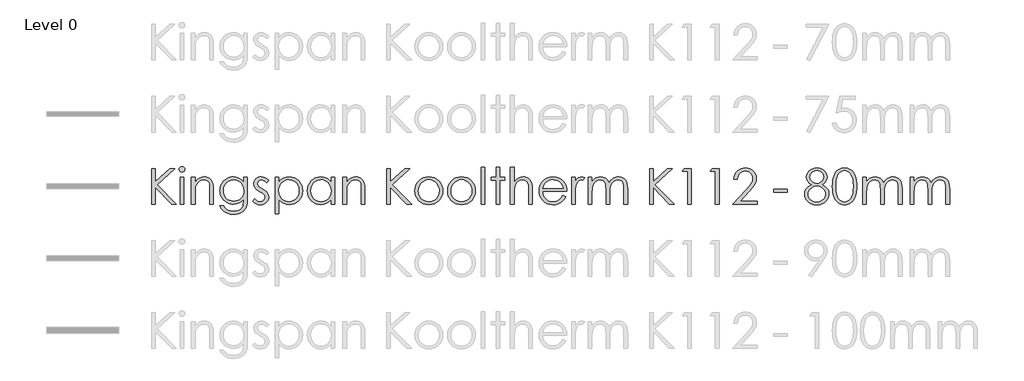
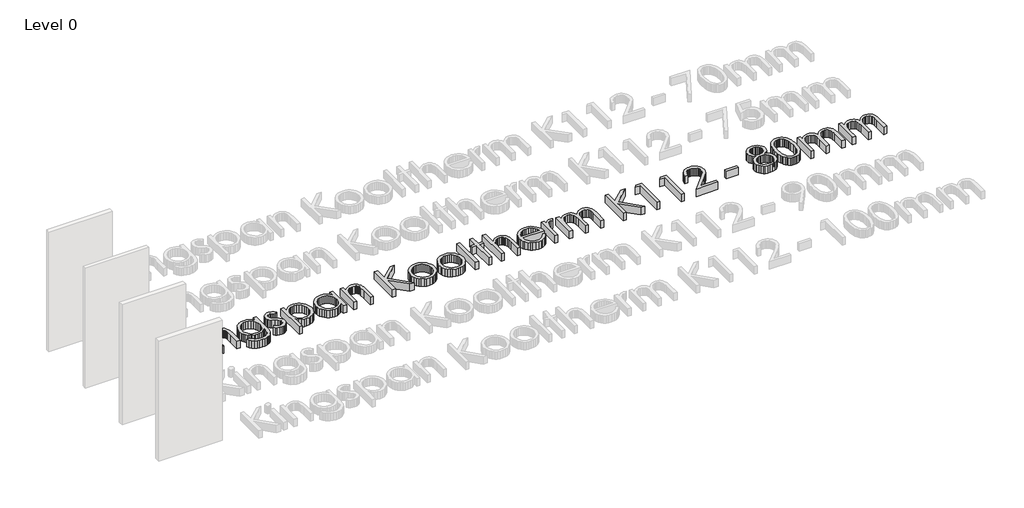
# One storey, part 8 of 14: 1 proxy.
"""IFC4 building model written with IfcOpenShell, lengths in millimetres."""

from ifc_helpers import new_model, si_unit, origin, origin_with_axes, place, context, project, spatial, polyline, outline, extrude, element, save

model = new_model("IFC4")

# Units and contexts
model_context = context("Model", 3, world=origin())
ifc_project = project(units=[si_unit("LENGTHUNIT", "METRE", prefix="MILLI")], contexts=[model_context])

# Site, building, storey
site = spatial("IfcSite", under=ifc_project)
building = spatial("IfcBuilding", under=site)
storey = spatial("IfcBuildingStorey", under=building, Name="Level 0", Elevation=0.0)

# Proxy
placement = place(None, origin())
element("IfcBuildingElementProxy", 1, Name="600mm KI_CenturyGothic", ObjectType="600mm KI_CenturyGothic", at=placement, inside=storey, context=model_context, shape_type="SweptSolid", body=[
    extrude(outline(polyline([(-3852.2663848, -1299.1034017), (-3792.944575, -1299.1034017), (-3792.944575, -1518.316027), (-3555.1938841, -1299.1034017), (-3471.6181051, -1299.1034017), (-3760.9664119, -1566.0515459), (-3441.9572002, -1892.3214999), (-3520.8984627, -1892.3214999), (-3792.944575, -1614.0960325), (-3792.944575, -1892.3214999), (-3852.2663848, -1892.3214999), (-3852.2663848, -1299.1034017)])), origin_with_axes(), (0.0, 0.0, 1.0), 150.0),
    extrude(outline(polyline([(-3348.1854852, -1269.4424967), (-3329.145347, -1272.7252792), (-3313.1176445, -1282.5736265), (-3302.226531, -1297.0178693), (-3298.5961598, -1314.088338), (-3302.226531, -1330.9270809), (-3313.1176445, -1345.2940817), (-3329.145347, -1355.142429), (-3348.1854852, -1358.4252115), (-3366.9938975, -1355.142429), (-3382.9443581, -1345.2940817), (-3393.8354717, -1330.9270809), (-3397.4658428, -1314.088338), (-3393.8354717, -1297.0178693), (-3382.9443581, -1282.5736265), (-3366.9938975, -1272.7252792), (-3348.1854852, -1269.4424967)])), origin_with_axes(), (0.0, 0.0, 1.0), 150.0),
    extrude(outline(polyline([(-3377.6919062, -1447.4079262), (-3318.3700964, -1447.4079262), (-3318.3700964, -1892.3214999), (-3377.6919062, -1892.3214999), (-3377.6919062, -1447.4079262)])), origin_with_axes(), (0.0, 0.0, 1.0), 150.0),
    extrude(outline(polyline([(-3189.8395084, -1447.4079262), (-3130.5176986, -1447.4079262), (-3130.5176986, -1526.5036726), (-3096.9946967, -1486.9944204), (-3060.0730495, -1459.303185), (-3019.7141359, -1442.9665147), (-2975.879335, -1437.5209579), (-2953.4357238, -1439.0995901), (-2932.2955704, -1443.8354865), (-2912.4588747, -1451.7286472), (-2893.9256368, -1462.7790723), (-2877.212412, -1476.5039994), (-2862.835756, -1492.4206667), (-2841.0921499, -1530.8292213), (-2833.6238199, -1555.2087086), (-2828.2892984, -1585.5551357), (-2824.0216812, -1664.1488095), (-2824.0216812, -1892.3214999), (-2883.343491, -1892.3214999), (-2883.343491, -1679.1337458), (-2883.343491, -1576.092998), (-2884.7290183, -1555.2956057), (-2889.8125035, -1537.2403023), (-2898.2849788, -1521.9270877), (-2910.1464442, -1509.355962), (-2924.7403432, -1499.5558909), (-2941.4101193, -1492.5558401), (-2980.977303, -1486.9557994), (-3005.3471351, -1489.1137461), (-3028.4038541, -1495.5875862), (-3050.1474602, -1506.3773197), (-3070.5779533, -1521.4829466), (-3088.6622225, -1539.7651482), (-3103.3671568, -1560.084606), (-3114.6927562, -1582.44132), (-3122.6390208, -1606.8352901), (-3128.5480292, -1653.9142525), (-3130.5176986, -1728.4141035), (-3130.5176986, -1892.3214999), (-3189.8395084, -1892.3214999), (-3189.8395084, -1447.4079262)])), origin_with_axes(), (0.0, 0.0, 1.0), 150.0),
    extrude(outline(polyline([(-2319.7862977, -1447.4079262), (-2260.4644879, -1447.4079262), (-2260.4644879, -1798.395301), (-2264.5196897, -1878.6496765), (-2269.588692, -1909.4499001), (-2276.6852953, -1934.0321474), (-2289.9371156, -1962.6454585), (-2307.2924139, -1987.7732271), (-2328.7511904, -2009.4154531), (-2354.3134448, -2027.5721366), (-2383.3226209, -2041.9343098), (-2415.122162, -2052.1930049), (-2449.7120682, -2058.348222), (-2487.0923395, -2060.3999611), (-2541.0458345, -2056.3833802), (-2589.206184, -2044.3336376), (-2630.260275, -2025.5059147), (-2662.8949946, -2001.1553932), (-2690.2000204, -1967.8061856), (-2715.2650299, -1921.9824048), (-2655.94322, -1921.9824048), (-2642.4355358, -1943.151524), (-2627.0933555, -1961.3951046), (-2609.9166791, -1976.7131468), (-2590.9055067, -1989.1056506), (-2569.7894914, -1998.6691682), (-2546.2982864, -2005.5002523), (-2492.1903075, -2010.9651195), (-2438.5071593, -2005.6354257), (-2415.083541, -1998.9733084), (-2393.93856, -1989.6463441), (-2359.6624492, -1965.6047903), (-2336.8567664, -1936.1176798), (-2329.3884364, -1917.4782342), (-2324.0539149, -1893.7697863), (-2319.7862977, -1831.1458835), (-2319.7862977, -1808.4367532), (-2354.757586, -1844.2190818), (-2396.6420279, -1870.6165148), (-2443.392712, -1886.8952536), (-2492.9627269, -1892.3214999), (-2522.4063889, -1890.4242447), (-2550.9521133, -1884.7324793), (-2578.5999001, -1875.2462036), (-2605.3497494, -1861.9654175), (-2630.1540674, -1845.4742634), (-2651.9652601, -1826.3568832), (-2670.7833277, -1804.6132772), (-2686.6082702, -1780.2434451), (-2699.1456025, -1753.9280817), (-2708.1008399, -1726.3478816), (-2713.4739824, -1697.5028447), (-2715.2650299, -1667.392971), (-2713.3967404, -1637.1044753), (-2707.7918722, -1607.8780563), (-2698.4504251, -1579.713714), (-2685.3723991, -1552.6114483), (-2668.9971079, -1527.4257483), (-2649.7638648, -1505.0111029), (-2627.67267, -1485.367512), (-2602.7235235, -1468.4949758), (-2575.9833294, -1454.943843), (-2548.5189922, -1445.2644624), (-2520.3305117, -1439.456834), (-2491.4178881, -1437.5209579), (-2444.5320306, -1442.4644421), (-2400.8903346, -1457.2948945), (-2359.6045177, -1483.8661218), (-2319.7862977, -1524.0319306), (-2319.7862977, -1447.4079262)]), holes=[polyline([(-2484.1571458, -1486.9557994), (-2529.0154023, -1492.9806707), (-2570.5908765, -1511.0552847), (-2606.2187212, -1539.7699758), (-2633.2340897, -1577.7150788), (-2650.2659375, -1621.9940208), (-2655.94322, -1669.7102292), (-2653.0080263, -1705.6229036), (-2644.2024452, -1738.2817613), (-2629.5264766, -1767.6868023), (-2608.9801206, -1793.8380266), (-2583.7606272, -1815.296803), (-2555.0652466, -1830.6245004), (-2522.8939786, -1839.8211189), (-2487.2468234, -1842.8866584), (-2451.3244937, -1839.845257), (-2419.1001219, -1830.7210528), (-2390.573708, -1815.5140459), (-2365.7452519, -1794.2242363), (-2345.6382095, -1767.9812872), (-2331.2760363, -1737.9148621), (-2322.6587323, -1704.024961), (-2319.7862977, -1666.3115838), (-2325.0773706, -1617.6105407), (-2340.9505892, -1574.3936754), (-2366.4983608, -1538.1672056), (-2400.8130926, -1510.4373492), (-2440.9982119, -1492.8261869), (-2484.1571458, -1486.9557994)])]), origin_with_axes(), (0.0, 0.0, 1.0), 150.0),
    extrude(outline(polyline([(-1904.5336289, -1498.6965743), (-1940.9918246, -1536.390641), (-1962.9575012, -1514.7628978), (-1984.6721416, -1499.3145098), (-2006.1357456, -1490.045477), (-2027.3483133, -1486.9557994), (-2052.181597, -1491.6289368), (-2073.2300256, -1505.6483489), (-2087.5970264, -1525.8857371), (-2092.3860267, -1549.212803), (-2088.4466878, -1570.7633042), (-2076.628671, -1591.2324183), (-2052.0657341, -1613.400855), (-2010.2006027, -1639.122421), (-1958.3326401, -1671.9888664), (-1939.8428507, -1687.8138088), (-1926.315856, -1703.2332311), (-1909.9791857, -1735.9065716), (-1904.5336289, -1772.4420092), (-1906.9474396, -1798.5884059), (-1914.1888714, -1822.6492701), (-1926.2579245, -1844.624602), (-1943.1545989, -1864.5144015), (-1963.6719892, -1881.0055557), (-1986.6031901, -1892.7849515), (-2011.9482016, -1899.852589), (-2039.7070237, -1902.2084682), (-2077.4397114, -1898.3270607), (-2113.3958344, -1886.6828383), (-2145.4512394, -1868.2027042), (-2171.4817731, -1843.8135617), (-2135.7959969, -1803.3387852), (-2114.0041146, -1824.9665283), (-2091.5749863, -1840.4149163), (-2068.5086121, -1849.6839491), (-2044.8049918, -1852.7736267), (-2013.637869, -1847.1349651), (-1987.4914724, -1830.2189802), (-1969.7644472, -1805.6560434), (-1963.8554388, -1777.0765256), (-1967.7561567, -1753.2860081), (-1979.4583106, -1732.2762005), (-2005.0253927, -1710.5712154), (-2050.2119275, -1683.7682622), (-2099.762632, -1653.1032121), (-2117.441381, -1637.9444814), (-2130.3890611, -1622.9016136), (-2146.3781427, -1590.7689666), (-2151.7078365, -1554.310771), (-2149.5305794, -1530.2643896), (-2142.9988078, -1508.3325063), (-2132.1125219, -1488.5151211), (-2116.8717217, -1470.812234), (-2098.309518, -1456.2473007), (-2077.4590218, -1445.8437769), (-2054.3202332, -1439.6016627), (-2028.8931521, -1437.5209579), (-1997.9481, -1441.3444339), (-1966.9064954, -1452.814862), (-1935.7683384, -1471.9322421), (-1904.5336289, -1498.6965743)])), origin_with_axes(), (0.0, 0.0, 1.0), 150.0),
    extrude(outline(polyline([(-1795.7769776, -1447.4079262), (-1736.4551678, -1447.4079262), (-1736.4551678, -1528.5119631), (-1700.9238754, -1488.2689124), (-1660.4490989, -1459.9211205), (-1614.9922173, -1443.1209986), (-1564.5146096, -1437.5209579), (-1520.0618732, -1441.7596094), (-1478.9305402, -1454.4755637), (-1441.1206107, -1475.668821), (-1406.6320845, -1505.3393811), (-1377.9077381, -1540.9768811), (-1357.3903478, -1580.070958), (-1345.0799137, -1622.6216116), (-1340.9764356, -1668.628842), (-1345.0412927, -1715.5291824), (-1357.235864, -1758.7508754), (-1377.5601494, -1798.293921), (-1406.014149, -1834.1583192), (-1440.2130179, -1863.9302594), (-1477.7719111, -1885.1959309), (-1518.6908288, -1897.9553339), (-1562.9697708, -1902.2084682), (-1612.6170277, -1896.743601), (-1658.0545988, -1880.3489992), (-1699.3211052, -1853.1019049), (-1736.4551678, -1815.07956), (-1736.4551678, -2050.5129928), (-1795.7769776, -2050.5129928), (-1795.7769776, -1447.4079262)]), holes=[polyline([(-1568.5311905, -1486.9557994), (-1602.5852307, -1490.2530647), (-1633.8392507, -1500.1448607), (-1662.2932503, -1516.6311872), (-1687.9472295, -1539.7120444), (-1709.1694525, -1567.6977647), (-1724.3281832, -1598.8986808), (-1733.4234216, -1633.3147926), (-1736.4551678, -1670.9461002), (-1731.048232, -1719.8016272), (-1714.8274246, -1763.4819442), (-1688.5265441, -1800.3263495), (-1652.8793888, -1828.6741414), (-1611.4390881, -1846.7487554), (-1567.7587711, -1852.7736267), (-1525.0632888, -1846.7101344), (-1485.0326535, -1828.5196576), (-1450.2544701, -1799.4187567), (-1423.3163435, -1760.6239924), (-1406.05277, -1715.9588407), (-1400.2982454, -1669.2467775), (-1405.9948385, -1622.3029886), (-1423.0846177, -1577.8695627), (-1449.8103289, -1539.5189395), (-1484.414718, -1510.8235589), (-1524.7157001, -1492.9227393), (-1568.5311905, -1486.9557994)])]), origin_with_axes(), (0.0, 0.0, 1.0), 150.0),
    extrude(outline(polyline([(-807.0801472, -1447.4079262), (-807.0801472, -1892.3214999), (-866.401957, -1892.3214999), (-866.401957, -1816.4699149), (-903.4780882, -1854.3184655), (-944.8797679, -1881.0441767), (-990.4525125, -1896.9173953), (-1040.0418379, -1902.2084682), (-1084.3159523, -1897.9553339), (-1125.2203871, -1885.1959309), (-1162.7551422, -1863.9302594), (-1196.9202178, -1834.1583192), (-1225.340424, -1798.293921), (-1245.6405713, -1758.7508754), (-1257.8206597, -1715.5291824), (-1261.8806892, -1668.628842), (-1257.7820388, -1622.6216116), (-1245.4860875, -1580.070958), (-1224.9928353, -1540.9768811), (-1196.3022822, -1505.3393811), (-1161.8475494, -1475.668821), (-1124.061758, -1454.4755637), (-1082.9449079, -1441.7596094), (-1038.4969991, -1437.5209579), (-987.7490446, -1443.1209986), (-942.0990581, -1459.9211205), (-921.2051134, -1472.6081091), (-901.6242816, -1488.2689124), (-866.401957, -1528.5119631), (-866.401957, -1447.4079262), (-807.0801472, -1447.4079262)]), holes=[polyline([(-1034.3259343, -1486.9557994), (-1078.1414247, -1492.9227393), (-1118.4424068, -1510.8235589), (-1153.0467959, -1539.5189395), (-1179.7725071, -1577.8695627), (-1196.8622863, -1622.3029886), (-1202.5588794, -1669.2467775), (-1196.8043548, -1715.9588407), (-1179.5407813, -1760.6239924), (-1152.6026548, -1799.4187567), (-1117.8244713, -1828.5196576), (-1077.6779731, -1846.7101344), (-1034.6349021, -1852.7736267), (-991.0125165, -1846.7487554), (-949.7460102, -1828.6741414), (-914.2726493, -1800.3263495), (-888.0297002, -1763.4819442), (-871.8088928, -1719.8016272), (-866.401957, -1670.9461002), (-869.4337032, -1633.3147926), (-878.5289416, -1598.8986808), (-893.6876723, -1567.6977647), (-914.9098953, -1539.7120444), (-940.5638746, -1516.6311872), (-969.0178742, -1500.1448607), (-1000.2718941, -1490.2530647), (-1034.3259343, -1486.9557994)])]), origin_with_axes(), (0.0, 0.0, 1.0), 150.0),
    extrude(outline(polyline([(-668.662591, -1447.4079262), (-609.3407811, -1447.4079262), (-609.3407811, -1526.5036726), (-575.8177792, -1486.9944204), (-538.896132, -1459.303185), (-498.5372184, -1442.9665147), (-454.7024175, -1437.5209579), (-432.2588064, -1439.0995901), (-411.1186529, -1443.8354865), (-391.2819572, -1451.7286472), (-372.7487193, -1462.7790723), (-356.0354946, -1476.5039994), (-341.6588385, -1492.4206667), (-319.9152324, -1530.8292213), (-312.4469024, -1555.2087086), (-307.1123809, -1585.5551357), (-302.8447637, -1664.1488095), (-302.8447637, -1892.3214999), (-362.1665735, -1892.3214999), (-362.1665735, -1679.1337458), (-362.1665735, -1576.092998), (-363.5521008, -1555.2956057), (-368.635586, -1537.2403023), (-377.1080613, -1521.9270877), (-388.9695267, -1509.355962), (-403.5634257, -1499.5558909), (-420.2332018, -1492.5558401), (-459.8003855, -1486.9557994), (-484.1702176, -1489.1137461), (-507.2269366, -1495.5875862), (-528.9705427, -1506.3773197), (-549.4010358, -1521.4829466), (-567.485305, -1539.7651482), (-582.1902393, -1560.084606), (-593.5158387, -1582.44132), (-601.4621033, -1606.8352901), (-607.3711117, -1653.9142525), (-609.3407811, -1728.4141035), (-609.3407811, -1892.3214999), (-668.662591, -1892.3214999), (-668.662591, -1447.4079262)])), origin_with_axes(), (0.0, 0.0, 1.0), 150.0),
    extrude(outline(polyline([(62.9730635, -1299.1034017), (122.2948734, -1299.1034017), (122.2948734, -1518.316027), (360.0455643, -1299.1034017), (443.6213432, -1299.1034017), (154.2730365, -1566.0515459), (473.2822481, -1892.3214999), (394.3409856, -1892.3214999), (122.2948734, -1614.0960325), (122.2948734, -1892.3214999), (62.9730635, -1892.3214999), (62.9730635, -1299.1034017)])), origin_with_axes(), (0.0, 0.0, 1.0), 150.0),
    extrude(outline(polyline([(760.1588128, -1437.5209579), (809.4681362, -1442.1458191), (854.3553585, -1456.0204025), (894.8204798, -1479.1447083), (930.8635, -1511.5187363), (957.7630055, -1546.7507161), (976.9769381, -1585.091684), (988.5052976, -1626.54164), (992.3480841, -1671.1005841), (988.283227, -1715.9153921), (976.0886558, -1757.8239721), (955.7643703, -1796.8263241), (927.3103707, -1832.9224481), (892.4742558, -1863.2350819), (853.0036246, -1884.8869632), (808.8984769, -1897.8780919), (760.1588128, -1902.2084682), (711.2839754, -1897.8780919), (667.0822753, -1884.8869632), (627.5537126, -1863.2350819), (592.6982872, -1832.9224481), (564.2442876, -1796.8263241), (543.9200022, -1757.8239721), (531.7254309, -1715.9153921), (527.6605738, -1671.1005841), (531.5033603, -1626.7347449), (543.0317198, -1585.4006518), (562.2456524, -1547.0983049), (589.145158, -1511.8277041), (625.2074886, -1479.3185026), (665.7305413, -1456.0976445), (710.7143161, -1442.1651295), (760.1588128, -1437.5209579)]), holes=[polyline([(760.004329, -1486.9557994), (725.7282181, -1490.3303067), (693.9624704, -1500.4538284), (664.7070856, -1517.3263647), (637.962064, -1540.9479154), (615.6584538, -1569.3584664), (599.7273037, -1600.5980035), (590.1686137, -1634.6665266), (586.9823836, -1671.5640357), (592.7948396, -1719.2995546), (610.2322075, -1763.6364281), (637.5758543, -1801.4270471), (673.1071466, -1829.5238028), (714.6439998, -1846.9611707), (760.004329, -1852.7736267), (805.3646581, -1846.9611707), (846.9015113, -1829.5238028), (882.4328037, -1801.4270471), (909.7764504, -1763.6364281), (927.2138183, -1719.2995546), (933.0262743, -1671.5640357), (929.8255614, -1634.6665266), (920.2234227, -1600.5980035), (904.2198583, -1569.3584664), (881.8148681, -1540.9479154), (854.9974321, -1517.3263647), (825.7565303, -1500.4538284), (794.0921625, -1490.3303067), (760.004329, -1486.9557994)])]), origin_with_axes(), (0.0, 0.0, 1.0), 150.0),
    extrude(outline(polyline([(1303.9420695, -1437.5209579), (1353.2513929, -1442.1458191), (1398.1386152, -1456.0204025), (1438.6037365, -1479.1447083), (1474.6467567, -1511.5187363), (1501.5462622, -1546.7507161), (1520.7601948, -1585.091684), (1532.2885543, -1626.54164), (1536.1313408, -1671.1005841), (1532.0664837, -1715.9153921), (1519.8719125, -1757.8239721), (1499.547627, -1796.8263241), (1471.0936274, -1832.9224481), (1436.2575126, -1863.2350819), (1396.7868813, -1884.8869632), (1352.6817336, -1897.8780919), (1303.9420695, -1902.2084682), (1255.0672321, -1897.8780919), (1210.865532, -1884.8869632), (1171.3369693, -1863.2350819), (1136.4815439, -1832.9224481), (1108.0275443, -1796.8263241), (1087.7032589, -1757.8239721), (1075.5086876, -1715.9153921), (1071.4438305, -1671.1005841), (1075.286617, -1626.7347449), (1086.8149766, -1585.4006518), (1106.0289091, -1547.0983049), (1132.9284147, -1511.8277041), (1168.9907453, -1479.3185026), (1209.5137981, -1456.0976445), (1254.4975728, -1442.1651295), (1303.9420695, -1437.5209579)]), holes=[polyline([(1303.7875857, -1486.9557994), (1269.5114748, -1490.3303067), (1237.7457271, -1500.4538284), (1208.4903423, -1517.3263647), (1181.7453207, -1540.9479154), (1159.4417105, -1569.3584664), (1143.5105604, -1600.5980035), (1133.9518704, -1634.6665266), (1130.7656404, -1671.5640357), (1136.5780963, -1719.2995546), (1154.0154643, -1763.6364281), (1181.359111, -1801.4270471), (1216.8904033, -1829.5238028), (1258.4272565, -1846.9611707), (1303.7875857, -1852.7736267), (1349.1479149, -1846.9611707), (1390.684768, -1829.5238028), (1426.2160604, -1801.4270471), (1453.5597071, -1763.6364281), (1470.997075, -1719.2995546), (1476.809531, -1671.5640357), (1473.6088181, -1634.6665266), (1464.0066795, -1600.5980035), (1448.003115, -1569.3584664), (1425.5981249, -1540.9479154), (1398.7806889, -1517.3263647), (1369.539787, -1500.4538284), (1337.8754193, -1490.3303067), (1303.7875857, -1486.9557994)])]), origin_with_axes(), (0.0, 0.0, 1.0), 150.0),
    extrude(outline(polyline([(1635.0010238, -1279.3294651), (1694.3228337, -1279.3294651), (1694.3228337, -1892.3214999), (1635.0010238, -1892.3214999), (1635.0010238, -1279.3294651)])), origin_with_axes(), (0.0, 0.0, 1.0), 150.0),
    extrude(outline(polyline([(1882.1752314, -1279.3294651), (1941.4970413, -1279.3294651), (1941.4970413, -1447.4079262), (2020.5927877, -1447.4079262), (2020.5927877, -1496.8427677), (1941.4970413, -1496.8427677), (1941.4970413, -1892.3214999), (1882.1752314, -1892.3214999), (1882.1752314, -1496.8427677), (1803.079485, -1496.8427677), (1803.079485, -1447.4079262), (1882.1752314, -1447.4079262), (1882.1752314, -1279.3294651)])), origin_with_axes(), (0.0, 0.0, 1.0), 150.0),
    extrude(outline(polyline([(2119.4624707, -1279.3294651), (2178.7842806, -1279.3294651), (2178.7842806, -1528.0485114), (2212.5583188, -1488.3461544), (2249.6151394, -1460.0756044), (2289.9161216, -1443.1596195), (2333.4226442, -1437.5209579), (2355.8662553, -1439.0995901), (2377.0064088, -1443.8354865), (2396.8431044, -1451.7286472), (2415.3763424, -1462.7790723), (2432.0895671, -1476.4895166), (2446.4662232, -1492.3627352), (2468.2098293, -1530.5974955), (2475.6781593, -1554.9045684), (2481.0126808, -1585.2654784), (2485.280298, -1664.1488095), (2485.280298, -1892.3214999), (2425.9584882, -1892.3214999), (2425.9584882, -1679.1337458), (2424.5681332, -1614.752589), (2420.3970685, -1576.092998), (2406.879729, -1537.2403023), (2397.1665551, -1521.9270877), (2385.4837117, -1509.355962), (2371.840854, -1499.5558909), (2356.2476374, -1492.5558401), (2319.2101273, -1486.9557994), (2296.3416854, -1489.1137461), (2274.6994594, -1495.5875862), (2254.2834492, -1506.3773197), (2235.0936547, -1521.4829466), (2218.1052556, -1539.7651482), (2204.2934312, -1560.084606), (2193.6581816, -1582.44132), (2186.1995068, -1606.8352901), (2180.6380871, -1653.6825267), (2178.7842806, -1728.4141035), (2178.7842806, -1892.3214999), (2119.4624707, -1892.3214999), (2119.4624707, -1279.3294651)])), origin_with_axes(), (0.0, 0.0, 1.0), 150.0),
    extrude(outline(polyline([(2991.0605203, -1744.0169753), (3038.950523, -1769.1978477), (3013.3255094, -1811.0822896), (2984.0315038, -1844.0452875), (2950.952643, -1869.1296074), (2913.9730643, -1887.3780157), (2872.4941426, -1898.5008551), (2825.9172528, -1902.2084682), (2774.4258447, -1897.7767119), (2728.8627554, -1884.481443), (2689.227985, -1862.3226615), (2655.5215335, -1831.3003674), (2628.6220279, -1794.6973431), (2609.4080954, -1755.7963712), (2597.8797358, -1714.5974515), (2594.0369493, -1671.1005841), (2597.3197318, -1630.2202874), (2607.1680791, -1591.618628), (2623.5819913, -1555.2956057), (2646.5614684, -1521.2512207), (2682.7493173, -1484.6192308), (2724.5758277, -1458.4535236), (2772.0409998, -1442.7540993), (2825.1448334, -1437.5209579), (2879.7935059, -1442.8892727), (2928.6490329, -1458.9942172), (2971.7114143, -1485.8357913), (3008.9806503, -1523.4139951), (3030.4539096, -1555.585263), (3045.9022976, -1591.541386), (3055.3258143, -1631.2823641), (3058.7244596, -1674.8081972), (2653.3587591, -1674.8081972), (2657.095338, -1712.0629503), (2666.6057518, -1745.8128504), (2681.8900007, -1776.0578975), (2702.9480845, -1802.7980916), (2728.3124066, -1824.6623882), (2756.5153699, -1840.2797429), (2787.5569744, -1849.6501557), (2821.4372203, -1852.7736267), (2854.9602222, -1849.761191), (2887.5563208, -1840.7238841), (2917.2944677, -1826.6851615), (2942.2436143, -1808.668479), (2965.725164, -1782.5027719), (2991.0605203, -1744.0169753)]), holes=[polyline([(2999.4026498, -1625.3733557), (2984.9777175, -1582.8516678), (2965.1844704, -1549.8307385), (2939.0766947, -1524.3022774), (2905.7081767, -1504.257994), (2867.7630738, -1491.2813481), (2827.9255433, -1486.9557994), (2795.503239, -1489.6689226), (2765.4368139, -1497.808292), (2737.726268, -1511.3739077), (2712.3716012, -1530.3657696), (2695.8321708, -1548.179692), (2681.4362043, -1569.9522638), (2669.1837016, -1595.683485), (2659.0746627, -1625.3733557), (2999.4026498, -1625.3733557)])]), origin_with_axes(), (0.0, 0.0, 1.0), 150.0),
    extrude(outline(polyline([(3137.820206, -1447.4079262), (3197.1420159, -1447.4079262), (3197.1420159, -1511.8277041), (3222.6897875, -1478.7874643), (3249.589293, -1455.6728138), (3277.7632906, -1442.0589219), (3307.1345382, -1437.5209579), (3330.4616041, -1441.305813), (3355.3335087, -1452.6603781), (3325.8270877, -1494.6799934), (3297.2475699, -1486.9557994), (3270.8308265, -1492.9034288), (3245.3409863, -1510.7463169), (3223.2884125, -1541.1023993), (3207.183468, -1584.5896114), (3199.6523789, -1642.7141712), (3197.1420159, -1740.1548783), (3197.1420159, -1892.3214999), (3137.820206, -1892.3214999), (3137.820206, -1447.4079262)])), origin_with_axes(), (0.0, 0.0, 1.0), 150.0),
    extrude(outline(polyline([(3414.6553185, -1447.4079262), (3473.9771284, -1447.4079262), (3473.9771284, -1523.5684789), (3503.5607913, -1487.0716623), (3533.9168737, -1461.9294109), (3577.3268439, -1443.6230712), (3622.8995884, -1437.5209579), (3653.7384329, -1440.668567), (3682.9165757, -1450.1113941), (3708.6767627, -1464.7873627), (3729.2617397, -1483.634396), (3746.0425511, -1509.0663047), (3760.3902414, -1543.4968994), (3775.16759, -1519.0981017), (3791.6925376, -1497.808292), (3809.965084, -1479.6274704), (3829.9852293, -1464.5556369), (3851.2798666, -1452.7279648), (3873.375889, -1444.2796277), (3896.2732965, -1439.2106253), (3919.9720892, -1437.5209579), (3962.3006723, -1443.3334139), (3981.4952943, -1450.5989839), (3999.3768034, -1460.7707818), (4015.4914031, -1473.53984), (4029.385297, -1488.5971907), (4050.5109676, -1525.5767694), (4057.8103309, -1548.9521114), (4063.0241619, -1577.5219739), (4067.1952266, -1650.2452603), (4067.1952266, -1892.3214999), (4007.8734168, -1892.3214999), (4007.8734168, -1646.6921311), (4005.4209852, -1585.5744462), (3998.0636904, -1547.1272706), (3984.7587663, -1522.6608861), (3964.4634466, -1503.4855746), (3938.3942919, -1491.0882432), (3907.7678627, -1486.9557994), (3888.1194443, -1488.5054659), (3869.3399976, -1493.1544651), (3834.3880198, -1511.7504621), (3805.6540182, -1540.6968791), (3785.8800816, -1577.9468046), (3779.1889985, -1602.1042213), (3774.4096535, -1633.1747916), (3770.5861775, -1716.0553931), (3770.5861775, -1892.3214999), (3711.2643677, -1892.3214999), (3711.2643677, -1661.9860352), (3708.850557, -1593.530366), (3701.6091252, -1551.2983353), (3688.3621325, -1525.0553863), (3667.9316394, -1504.5669617), (3641.6114484, -1491.35859), (3610.6953619, -1486.9557994), (3573.7544042, -1492.9999812), (3539.2465676, -1511.1325266), (3510.2808401, -1539.499629), (3489.9662099, -1576.2474819), (3477.9743988, -1628.0768236), (3473.9771284, -1701.6883923), (3473.9771284, -1892.3214999), (3414.6553185, -1892.3214999), (3414.6553185, -1447.4079262)])), origin_with_axes(), (0.0, 0.0, 1.0), 150.0),
    extrude(outline(polyline([(4433.0130538, -1299.1034017), (4492.3348637, -1299.1034017), (4492.3348637, -1518.316027), (4730.0855546, -1299.1034017), (4813.6613335, -1299.1034017), (4524.3130268, -1566.0515459), (4843.3222385, -1892.3214999), (4764.3809759, -1892.3214999), (4492.3348637, -1614.0960325), (4492.3348637, -1892.3214999), (4433.0130538, -1892.3214999), (4433.0130538, -1299.1034017)])), origin_with_axes(), (0.0, 0.0, 1.0), 150.0),
    extrude(outline(polyline([(5010.6282802, -1299.1034017), (5125.1008351, -1299.1034017), (5125.1008351, -1892.3214999), (5065.7790253, -1892.3214999), (5065.7790253, -1348.5382432), (4976.7963106, -1348.5382432), (5010.6282802, -1299.1034017)])), origin_with_axes(), (0.0, 0.0, 1.0), 150.0),
    extrude(outline(polyline([(5475.3157905, -1299.1034017), (5589.7883454, -1299.1034017), (5589.7883454, -1892.3214999), (5530.4665356, -1892.3214999), (5530.4665356, -1348.5382432), (5441.4838208, -1348.5382432), (5475.3157905, -1299.1034017)])), origin_with_axes(), (0.0, 0.0, 1.0), 150.0),
    extrude(outline(polyline([(5896.2843628, -1477.0688311), (5836.962553, -1477.0688311), (5841.4474131, -1437.8106152), (5852.5847353, -1402.2213914), (5870.3745196, -1370.3011597), (5894.816766, -1342.0499202), (5924.2121517, -1318.9352697), (5956.8613542, -1302.4248051), (5992.7643733, -1292.5185263), (6031.9212092, -1289.2164334), (6070.3925229, -1292.5136987), (6105.0113948, -1302.4054946), (6135.777825, -1318.8918211), (6162.6918135, -1341.9726783), (6184.5561101, -1369.533568), (6200.1734648, -1399.459992), (6209.5438776, -1431.7519505), (6212.6673485, -1466.4094434), (6206.5845458, -1515.2070389), (6188.3361375, -1560.8763359), (6152.5538088, -1612.763609), (6093.869245, -1680.215133), (5941.084688, -1842.8866584), (6222.5543169, -1842.8866584), (6222.5543169, -1892.3214999), (5817.1886164, -1892.3214999), (6043.1985325, -1651.6356152), (6099.9327373, -1586.1151397), (6132.6446988, -1540.0210121), (6148.1703288, -1502.6552237), (6153.3455387, -1463.3197658), (6151.0958672, -1438.7133804), (6144.3468527, -1415.8739043), (6133.0984952, -1394.8013375), (6117.3507947, -1375.4956802), (6098.3396223, -1359.3762529), (6077.3008489, -1347.8623762), (6054.2344746, -1340.9540502), (6029.1404994, -1338.6512749), (6002.8058255, -1340.9250845), (5978.7980651, -1347.7465133), (5957.1172181, -1359.1155613), (5937.7632845, -1375.0322286), (5921.5279943, -1395.0523738), (5909.2030773, -1418.731856), (5900.7885334, -1446.0706751), (5896.2843628, -1477.0688311)])), origin_with_axes(), (0.0, 0.0, 1.0), 150.0),
    extrude(outline(polyline([(6499.3894294, -1645.1472923), (6726.7897004, -1645.1472923), (6726.7897004, -1694.5821338), (6499.3894294, -1694.5821338), (6499.3894294, -1645.1472923)])), origin_with_axes(), (0.0, 0.0, 1.0), 150.0),
    extrude(outline(polyline([(7304.095959, -1568.2143202), (7356.1956474, -1599.6131687), (7376.0178602, -1616.8477766), (7391.6883188, -1635.1058401), (7403.5835775, -1654.5225327), (7412.0801909, -1675.2330279), (7417.1781589, -1697.2373255), (7418.8774816, -1720.5354256), (7416.0581508, -1753.2184214), (7407.6001584, -1783.9124373), (7393.5035044, -1812.6174732), (7373.7681887, -1839.3335291), (7343.0741729, -1866.841315), (7306.4518381, -1886.4897334), (7263.9011845, -1898.2787845), (7215.422212, -1902.2084682), (7168.7584251, -1898.756719), (7128.100199, -1888.4014714), (7093.4475337, -1871.1427255), (7064.8004292, -1846.9804812), (7042.3616457, -1818.6664826), (7026.3339432, -1788.9524739), (7016.7173217, -1757.838455), (7013.5117812, -1725.3244259), (7015.2255867, -1701.5966675), (7020.3670033, -1679.0758144), (7028.936031, -1657.7618666), (7040.9326698, -1637.6548241), (7056.8300266, -1618.6871003), (7077.1012082, -1600.7911083), (7101.7462146, -1583.9668483), (7130.7650459, -1568.2143202), (7092.3951123, -1543.2651736), (7065.0321551, -1512.9090912), (7048.6375533, -1478.6522909), (7043.1726861, -1442.0009904), (7048.9658316, -1404.2876133), (7066.345268, -1367.4625184), (7093.9592615, -1334.9436618), (7130.4560781, -1310.1489991), (7173.055008, -1294.4495748), (7218.9753412, -1289.2164334), (7263.7177349, -1294.4881958), (7304.9456203, -1310.3034829), (7340.1486344, -1335.1753876), (7366.8164141, -1367.6170023), (7383.6165361, -1404.7510649), (7389.2165767, -1443.7003131), (7383.9061933, -1481.2398959), (7367.9750432, -1514.45393), (7341.3845054, -1543.4196575), (7304.095959, -1568.2143202)]), holes=[polyline([(7216.0401475, -1338.6512749), (7192.5344597, -1340.5099091), (7171.14327, -1346.0858116), (7151.8665783, -1355.3789825), (7134.7043848, -1368.3894217), (7120.6125584, -1383.9778107), (7110.5469681, -1401.0048308), (7104.507614, -1419.4704821), (7102.4944959, -1439.3747645), (7104.6620978, -1459.2838745), (7111.1649037, -1478.2274602), (7122.0029133, -1496.2055217), (7137.1761269, -1513.218059), (7155.236258, -1527.6816122), (7174.7350202, -1538.0127217), (7195.6724135, -1544.2113874), (7218.048438, -1546.2776093), (7246.7631291, -1542.5313752), (7273.8943605, -1531.2926729), (7297.3565997, -1513.5463372), (7315.0643144, -1490.2772028), (7326.1871538, -1464.2273586), (7329.8947669, -1438.1388934), (7328.0699261, -1419.9677271), (7322.5954036, -1402.5303592), (7313.4711994, -1385.8267897), (7300.6973136, -1369.8570186), (7284.4571958, -1356.2045057), (7264.9342955, -1346.4527108), (7242.1286127, -1340.6016339), (7216.0401475, -1338.6512749)]), polyline([(7219.284309, -1595.7124508), (7189.4158164, -1598.2228138), (7162.067342, -1605.753903), (7137.238886, -1618.3057182), (7114.9304482, -1635.8782595), (7096.5130732, -1656.7818595), (7083.3578053, -1679.3268507), (7075.4646446, -1703.5132331), (7072.833591, -1729.3410068), (7077.332934, -1761.4543433), (7090.830963, -1791.6752522), (7112.4007747, -1817.6092335), (7141.1154658, -1836.8617871), (7175.9902017, -1848.7956668), (7216.0401475, -1852.7736267), (7247.2603741, -1850.3549884), (7275.110921, -1843.0990737), (7299.5917884, -1831.0058825), (7320.702976, -1814.0754148), (7337.7010304, -1793.9104409), (7349.8424979, -1772.113731), (7357.1273783, -1748.6852851), (7359.5556718, -1723.6251032), (7356.9873773, -1699.2938921), (7349.2824938, -1676.353036), (7336.4410213, -1654.8025348), (7318.4629598, -1634.6423885), (7296.8545271, -1617.6105407), (7273.1219411, -1605.4449352), (7247.2652017, -1598.1455719), (7219.284309, -1595.7124508)])]), origin_with_axes(), (0.0, 0.0, 1.0), 150.0),
    extrude(outline(polyline([(7478.1992914, -1595.8669347), (7479.7779236, -1541.4355052), (7484.51382, -1493.5406748), (7492.4069808, -1452.1824436), (7503.4574058, -1417.3608116), (7517.3850931, -1387.7192172), (7533.9100406, -1361.9010988), (7553.0322483, -1339.9064564), (7574.7517163, -1321.73529), (7598.4456813, -1307.5082902), (7623.4913804, -1297.3461475), (7649.8888133, -1291.2488619), (7677.6379802, -1289.2164334), (7705.8409435, -1291.2633448), (7732.6728624, -1297.404079), (7758.1337368, -1307.638636), (7782.2235668, -1321.9670159), (7804.4064864, -1340.3843909), (7824.1466297, -1362.8859335), (7841.4439966, -1389.4716437), (7856.2985871, -1420.1415214), (7868.2276392, -1455.6583309), (7876.7483907, -1496.7848363), (7881.8608416, -1543.5210375), (7883.5649919, -1595.8669347), (7881.8849797, -1648.0535203), (7876.8449431, -1694.6207548), (7868.4448822, -1735.5686382), (7856.6847968, -1770.8971704), (7841.9750349, -1801.4222195), (7824.7259442, -1827.9596535), (7804.9375247, -1850.5094723), (7782.6097765, -1869.071676), (7758.3509797, -1883.5690226), (7732.7694148, -1893.9242701), (7705.8650816, -1900.1374187), (7677.6379802, -1902.2084682), (7649.9129514, -1900.2001778), (7623.5879328, -1894.1753064), (7598.6629243, -1884.1338543), (7575.137926, -1870.0758212), (7553.5632867, -1852.0398282), (7534.4893551, -1830.0644964), (7517.9161314, -1804.1498255), (7503.8436155, -1774.2958158), (7492.6242237, -1739.2762513), (7484.6103725, -1697.8649163), (7479.8020617, -1650.0618107), (7478.1992914, -1595.8669347)]), holes=[polyline([(7537.5211013, -1595.7124508), (7541.9045814, -1684.038609), (7547.3839315, -1719.0195525), (7555.0550216, -1747.8790723), (7564.8695756, -1772.1185586), (7576.7793172, -1793.2394015), (7590.7842464, -1811.2416011), (7606.8843633, -1826.1251574), (7642.1839298, -1846.1115094), (7660.586822, -1851.1080973), (7679.4917868, -1852.7736267), (7698.4836487, -1851.1418907), (7716.8382647, -1846.2466828), (7751.6357586, -1826.665851), (7767.3931143, -1811.9898824), (7781.1421796, -1794.0697524), (7792.8829545, -1772.9054608), (7802.6154389, -1748.4970078), (7812.0775766, -1715.1381451), (7818.8362463, -1678.5544313), (7824.2431821, -1595.7124508), (7819.4155608, -1514.1063413), (7813.3810343, -1479.4150551), (7804.9326971, -1448.7982811), (7794.3505514, -1422.135329), (7781.914599, -1399.3055082), (7767.6248402, -1380.3088186), (7751.4812747, -1365.1452603), (7716.413434, -1345.2747712), (7698.1843362, -1340.307149), (7679.4917868, -1338.6512749), (7660.4757867, -1340.307149), (7642.0487564, -1345.2747712), (7606.9616052, -1365.1452603), (7591.0159723, -1379.9564022), (7577.088285, -1397.8958428), (7565.1785434, -1418.9635819), (7555.2867474, -1443.1596195), (7547.5142772, -1472.0143117), (7541.9625128, -1507.0580143), (7537.5211013, -1595.7124508)])]), origin_with_axes(), (0.0, 0.0, 1.0), 150.0),
    extrude(outline(polyline([(7982.4346749, -1447.4079262), (8041.7564848, -1447.4079262), (8041.7564848, -1523.5684789), (8071.3401477, -1487.0716623), (8101.6962301, -1461.9294109), (8145.1062003, -1443.6230712), (8190.6789448, -1437.5209579), (8221.5177893, -1440.668567), (8250.6959321, -1450.1113941), (8276.4561191, -1464.7873627), (8297.0410961, -1483.634396), (8313.8219075, -1509.0663047), (8328.1695978, -1543.4968994), (8342.9469464, -1519.0981017), (8359.471894, -1497.808292), (8377.7444404, -1479.6274704), (8397.7645856, -1464.5556369), (8419.0592229, -1452.7279648), (8441.1552454, -1444.2796277), (8464.0526529, -1439.2106253), (8487.7514456, -1437.5209579), (8530.0800287, -1443.3334139), (8549.2746507, -1450.5989839), (8567.1561598, -1460.7707818), (8583.2707595, -1473.53984), (8597.1646534, -1488.5971907), (8618.290324, -1525.5767694), (8625.5896873, -1548.9521114), (8630.8035182, -1577.5219739), (8634.974583, -1650.2452603), (8634.974583, -1892.3214999), (8575.6527732, -1892.3214999), (8575.6527732, -1646.6921311), (8573.2003416, -1585.5744462), (8565.8430468, -1547.1272706), (8552.5381227, -1522.6608861), (8532.242803, -1503.4855746), (8506.1736483, -1491.0882432), (8475.5472191, -1486.9557994), (8455.8988006, -1488.5054659), (8437.119354, -1493.1544651), (8402.1673762, -1511.7504621), (8373.4333746, -1540.6968791), (8353.659438, -1577.9468046), (8346.9683549, -1602.1042213), (8342.1890099, -1633.1747916), (8338.3655339, -1716.0553931), (8338.3655339, -1892.3214999), (8279.0437241, -1892.3214999), (8279.0437241, -1661.9860352), (8276.6299134, -1593.530366), (8269.3884816, -1551.2983353), (8256.1414889, -1525.0553863), (8235.7109958, -1504.5669617), (8209.3908048, -1491.35859), (8178.4747183, -1486.9557994), (8141.5337606, -1492.9999812), (8107.025924, -1511.1325266), (8078.0601965, -1539.499629), (8057.7455663, -1576.2474819), (8045.7537552, -1628.0768236), (8041.7564848, -1701.6883923), (8041.7564848, -1892.3214999), (7982.4346749, -1892.3214999), (7982.4346749, -1447.4079262)])), origin_with_axes(), (0.0, 0.0, 1.0), 150.0),
    extrude(outline(polyline([(8773.3921393, -1447.4079262), (8832.7139491, -1447.4079262), (8832.7139491, -1523.5684789), (8862.2976121, -1487.0716623), (8892.6536944, -1461.9294109), (8936.0636646, -1443.6230712), (8981.6364092, -1437.5209579), (9012.4752537, -1440.668567), (9041.6533964, -1450.1113941), (9067.4135834, -1464.7873627), (9087.9985604, -1483.634396), (9104.7793718, -1509.0663047), (9119.1270621, -1543.4968994), (9133.9044108, -1519.0981017), (9150.4293583, -1497.808292), (9168.7019047, -1479.6274704), (9188.72205, -1464.5556369), (9210.0166873, -1452.7279648), (9232.1127097, -1444.2796277), (9255.0101172, -1439.2106253), (9278.7089099, -1437.5209579), (9321.037493, -1443.3334139), (9340.232115, -1450.5989839), (9358.1136241, -1460.7707818), (9374.2282238, -1473.53984), (9388.1221177, -1488.5971907), (9409.2477883, -1525.5767694), (9416.5471516, -1548.9521114), (9421.7609826, -1577.5219739), (9425.9320473, -1650.2452603), (9425.9320473, -1892.3214999), (9366.6102375, -1892.3214999), (9366.6102375, -1646.6921311), (9364.1578059, -1585.5744462), (9356.8005111, -1547.1272706), (9343.495587, -1522.6608861), (9323.2002673, -1503.4855746), (9297.1311126, -1491.0882432), (9266.5046834, -1486.9557994), (9246.856265, -1488.5054659), (9228.0768183, -1493.1544651), (9193.1248405, -1511.7504621), (9164.3908389, -1540.6968791), (9144.6169023, -1577.9468046), (9137.9258192, -1602.1042213), (9133.1464742, -1633.1747916), (9129.3229982, -1716.0553931), (9129.3229982, -1892.3214999), (9070.0011884, -1892.3214999), (9070.0011884, -1661.9860352), (9067.5873778, -1593.530366), (9060.3459459, -1551.2983353), (9047.0989532, -1525.0553863), (9026.6684601, -1504.5669617), (9000.3482691, -1491.35859), (8969.4321827, -1486.9557994), (8932.4912249, -1492.9999812), (8897.9833883, -1511.1325266), (8869.0176608, -1539.499629), (8848.7030306, -1576.2474819), (8836.7112195, -1628.0768236), (8832.7139491, -1701.6883923), (8832.7139491, -1892.3214999), (8773.3921393, -1892.3214999), (8773.3921393, -1447.4079262)])), origin_with_axes(), (0.0, 0.0, 1.0), 150.0),
])

save(model, "model.ifc")
